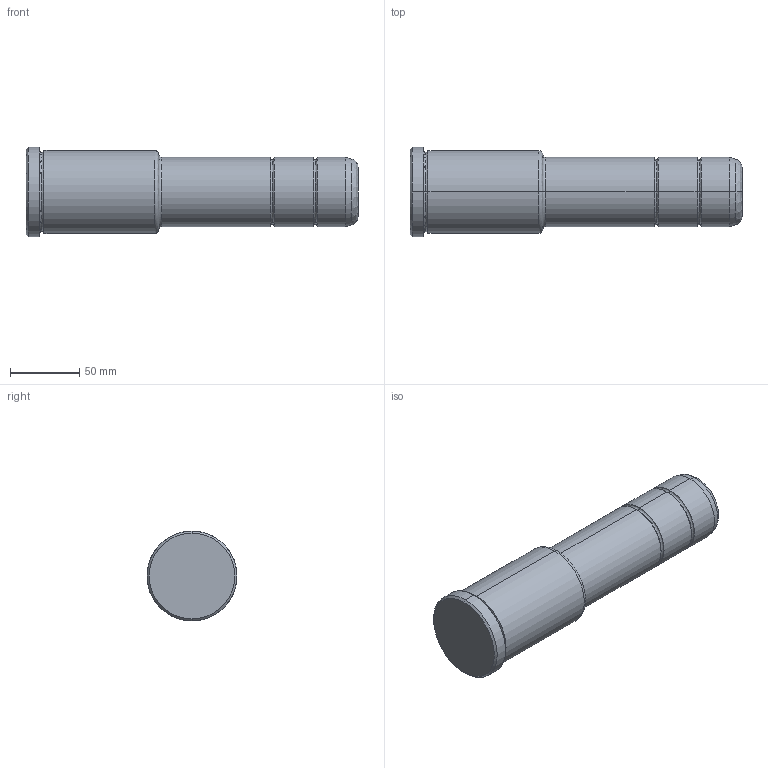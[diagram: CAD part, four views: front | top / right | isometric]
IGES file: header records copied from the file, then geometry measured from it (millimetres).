
Start section: START RECORD GO HERE.
Global section: file name: 351-50X96X240.igs; native system: DASSAULT SYSTEMES CATIA V5 R20 - www.3ds.com; preprocessor: CATIA Version 5 Release 20 ; author: Utente; organization: NB04-ASUS; date: 20211108.195617; units: millimetre
Bounding box: 240 x 65 x 65 mm (x, y, z)
Surface area: 47138.9 mm2 (no closed solid volume)
Topology: 0 solids, 0 shells, 35 faces, 196 edges, 196 vertices
Faces by surface type: revolution 32, plane 3
